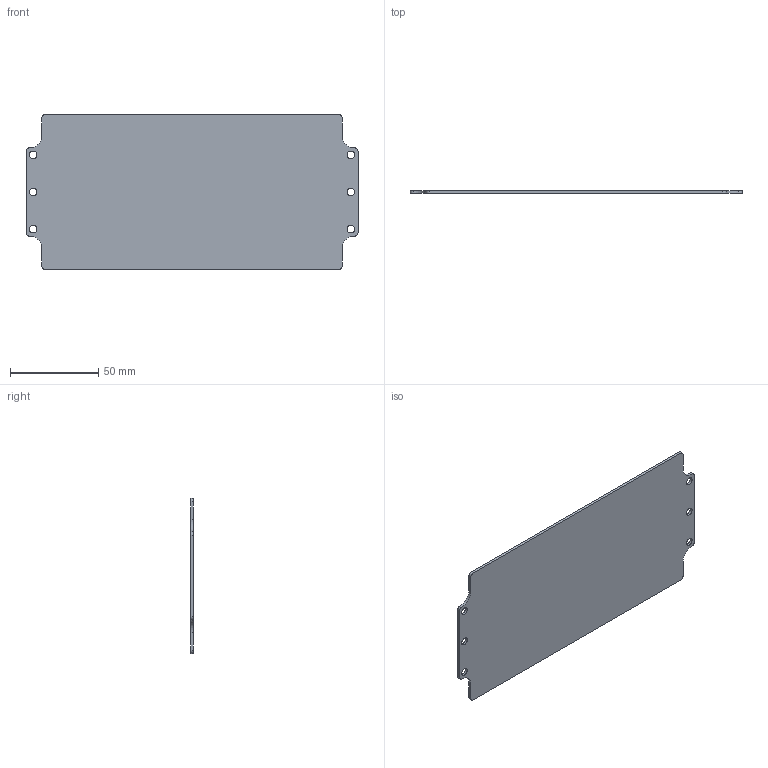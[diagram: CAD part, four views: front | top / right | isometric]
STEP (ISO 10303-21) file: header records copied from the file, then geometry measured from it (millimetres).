
FILE_DESCRIPTION(/* description */ (''),/* implementation_level */ '2;1');
FILE_NAME(/* name */ '1590Z145 PL.stp',/* time_stamp */ '2025-11-27T14:20:11-05:00',/* author */ ('mbeerman'),/* organization */ (''),/* preprocessor_version */ 'ST-DEVELOPER v20.1',/* originating_system */ 'Autodesk Inventor 2026',/* authorisation */ '');
FILE_SCHEMA (('AUTOMOTIVE_DESIGN { 1 0 10303 214 3 1 1 }'));
Length unit declared in the file: millimetre
Products named in the file (1): Part4
Bounding box: 188 x 1.5 x 88 mm (x, y, z)
Volume: 23705.9 mm3; surface area: 32532 mm2
Topology: 1 solids, 1 shells, 28 faces, 78 edges, 52 vertices
Faces by surface type: cylinder 18, plane 10
Full cylindrical faces by diameter (mm): 4.4 x6
Entity records: 985 total; most frequent: DIRECTION 172, CARTESIAN_POINT 159, ORIENTED_EDGE 156, EDGE_CURVE 78, AXIS2_PLACEMENT_3D 65, VERTEX_POINT 52, LINE 42, VECTOR 42
